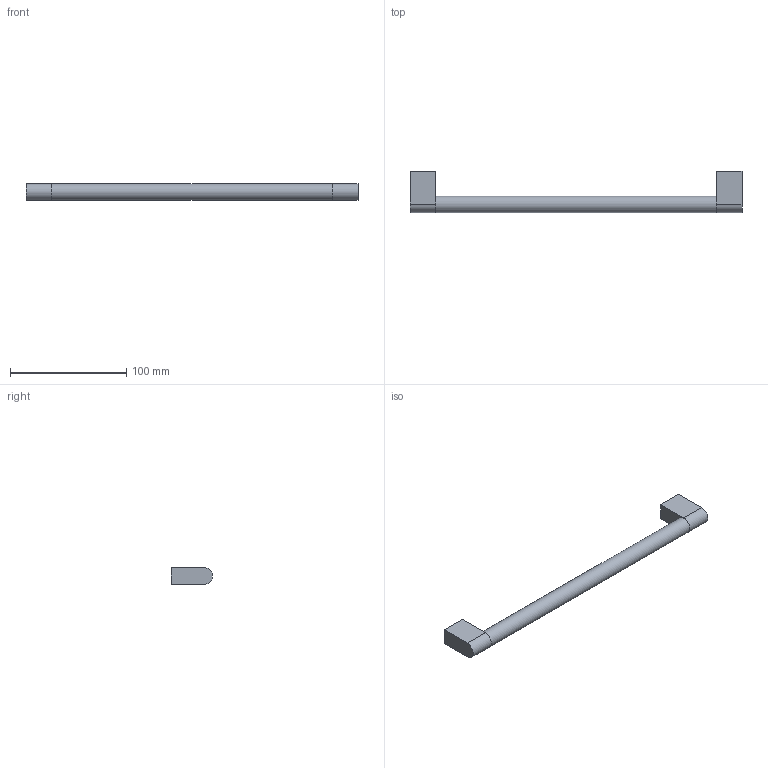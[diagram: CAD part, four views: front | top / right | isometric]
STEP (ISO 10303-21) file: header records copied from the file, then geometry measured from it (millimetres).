
FILE_DESCRIPTION( ( 'STEP AP214' ), '1' );
FILE_NAME( 'C:/Shahbaz/Shahbaz D&D/Task/Working-ON/Varna/QC/9332351.stp', '2023-08-29T06:57:42', ( '' ), ( '' ), ' ', 'PARTsolutions', ' ' );
FILE_SCHEMA( ( 'AUTOMOTIVE_DESIGN { 1 0 10303 214 1 1 1 1 }' ) );
Length unit declared in the file: millimetre
Products named in the file (1): _9332351
Bounding box: 286 x 35.36 x 14.64 mm (x, y, z)
Volume: 59184.9 mm3; surface area: 17165.6 mm2
Topology: 1 solids, 1 shells, 17 faces, 33 edges, 22 vertices
Faces by surface type: plane 12, cylinder 5
Full cylindrical faces by diameter (mm): 6.2 x2, 14.2 x1
Entity records: 574 total; most frequent: DIRECTION 76, CARTESIAN_POINT 70, ORIENTED_EDGE 60, EDGE_CURVE 30, AXIS2_PLACEMENT_3D 28, EDGE_LOOP 24, VERTEX_POINT 22, FACE_OUTER_BOUND 20
